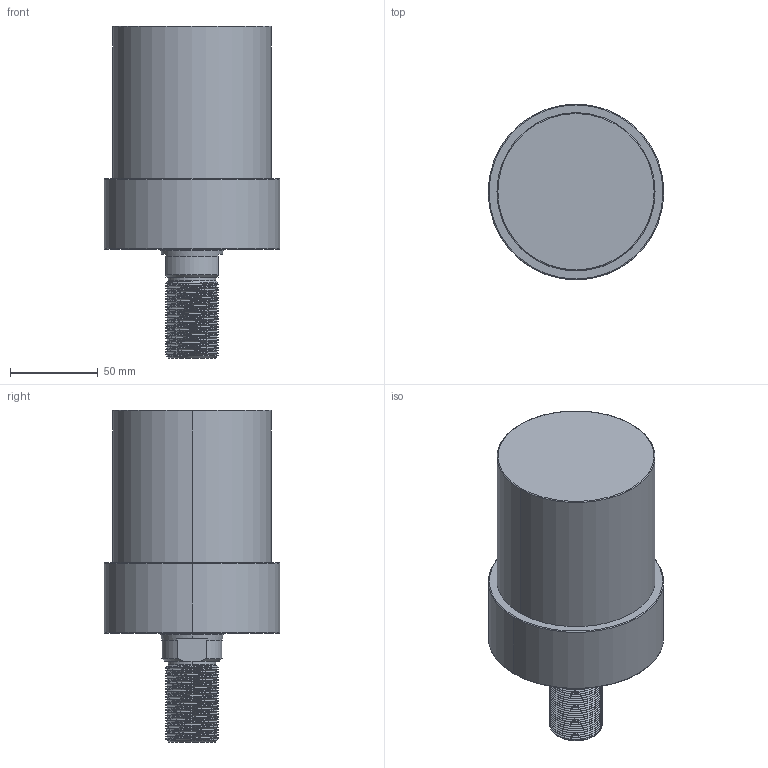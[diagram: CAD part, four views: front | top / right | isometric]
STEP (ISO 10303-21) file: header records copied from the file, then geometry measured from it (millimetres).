
FILE_DESCRIPTION (( 'STEP AP203' ), '1' );
FILE_NAME ('CLLU-090GT-065.STEP', '2020-01-13T02:58:33', ( '' ), ( '' ), 'SwSTEP 2.0', 'SolidWorks 2015', '' );
FILE_SCHEMA (( 'CONFIG_CONTROL_DESIGN' ));
Length unit declared in the file: millimetre
Products named in the file (1): CLLU-090GT-065
Bounding box: 100 x 100 x 189 mm (x, y, z)
Volume: 906093 mm3; surface area: 64509.4 mm2
Topology: 1 solids, 1 shells, 123 faces, 321 edges, 201 vertices
Faces by surface type: cylinder 78, cone 26, plane 11, torus 6, bspline 2
Entity records: 7155 total; most frequent: CARTESIAN_POINT 4420, ORIENTED_EDGE 626, DIRECTION 501, EDGE_CURVE 313, VERTEX_POINT 201, AXIS2_PLACEMENT_3D 197, EDGE_LOOP 132, FACE_OUTER_BOUND 123
